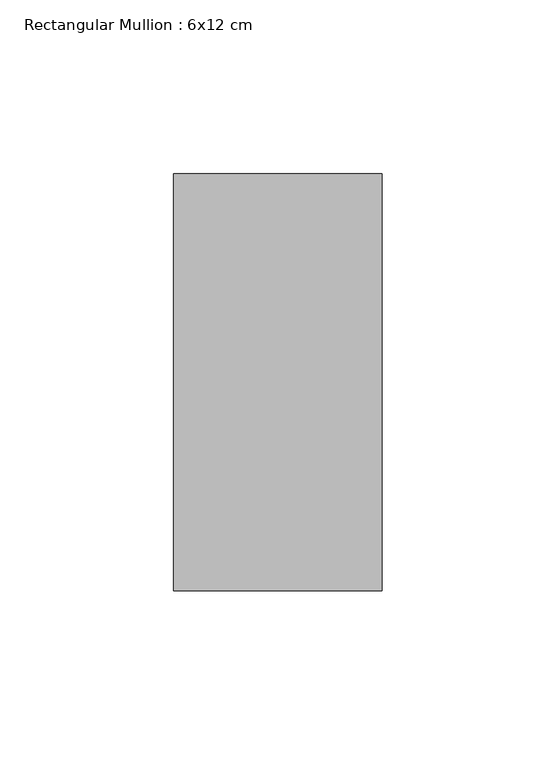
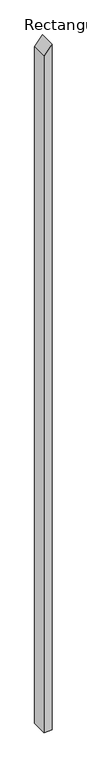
"""IFC4 building model written with IfcOpenShell, lengths in millimetres: member geometry, Rectangular Mullion : 6x12 cm."""

from ifc_helpers import new_model, si_unit, frame, origin, place, context, project, spatial, polyline, outline, extrude, source, transform, mapped, element, save


def rectangular_mullion_6x12_cm_10c7f1ba(model_context):
    return source(origin(), model_context, "Body", "SweptSolid", [
        extrude(outline(polyline([(-58.5076842, 30.0), (-133.3680498, -30.0), (-5503.0800396, -30.0), (-5503.0800396, 30.0), (-58.5076842, 30.0)])), frame((0.0, 85.0, 0.0), z_axis=(0.0, 1.0, 0.0), x_axis=(0.0, 0.0, 1.0)), (0.0, 0.0, 1.0), 120.0),
    ])


if __name__ == "__main__":
    model = new_model("IFC4")
    model_context = context("Model", 3, world=origin())
    ifc_project = project(units=[si_unit("LENGTHUNIT", "METRE", prefix="MILLI")], contexts=[model_context])
    site = spatial("IfcSite", under=ifc_project)
    building = spatial("IfcBuilding", under=site)
    placement = place(None, origin())
    rectangular_mullion_6x12_cm_shape = rectangular_mullion_6x12_cm_10c7f1ba(model_context)
    element("IfcMember", 1, ObjectType="Rectangular Mullion : 6x12 cm", at=placement, inside=building, context=model_context, shape_type="MappedRepresentation", body=[
        mapped(rectangular_mullion_6x12_cm_shape, transform((0.0, 0.0, 0.0), x_axis=(1.0, 0.0, 0.0), y_axis=(0.0, 1.0, 0.0), z_axis=(0.0, 0.0, 1.0))),
    ])
    save(model, "model.ifc")
